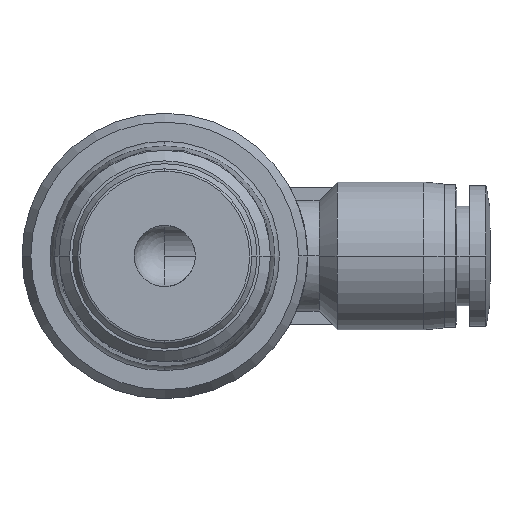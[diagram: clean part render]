
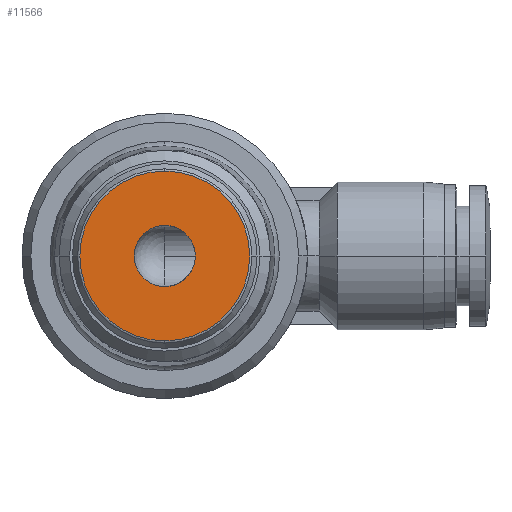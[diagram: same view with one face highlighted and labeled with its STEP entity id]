
A CAD part, front view. The second image highlights one B-rep face of the part: STEP entity #11566.
In plain terms, the highlighted planar face has unit normal (0, -1, 0).
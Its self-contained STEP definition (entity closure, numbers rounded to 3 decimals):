
#236 = CARTESIAN_POINT ( 'NONE',  ( -4.164, 0., 0. ) ) ;
#397 = EDGE_CURVE ( 'NONE', #9989, #9080, #7406, .T. ) ;
#413 = AXIS2_PLACEMENT_3D ( 'NONE', #236, #10806, #1605 ) ;
#414 = FACE_BOUND ( 'NONE', #965, .T. ) ;
#578 = CIRCLE ( 'NONE', #2747, 8.328 ) ;
#867 = CARTESIAN_POINT ( 'NONE',  ( 0., 0., 0. ) ) ;
#965 = EDGE_LOOP ( 'NONE', ( #11422, #5087 ) ) ;
#1335 = DIRECTION ( 'NONE',  ( -1., 0., 0. ) ) ;
#1595 = CARTESIAN_POINT ( 'NONE',  ( 0., 0., 0. ) ) ;
#1605 = DIRECTION ( 'NONE',  ( 0., 0., -1. ) ) ;
#2146 = VERTEX_POINT ( 'NONE', #15946 ) ;
#2172 = DIRECTION ( 'NONE',  ( 0., 1., 0. ) ) ;
#2747 = AXIS2_PLACEMENT_3D ( 'NONE', #867, #16621, #16536 ) ;
#3027 = CIRCLE ( 'NONE', #4906, 3. ) ;
#3299 = CARTESIAN_POINT ( 'NONE',  ( 0., 0., 0. ) ) ;
#3820 = VERTEX_POINT ( 'NONE', #6279 ) ;
#4186 = CARTESIAN_POINT ( 'NONE',  ( 0., 0., -8.328 ) ) ;
#4906 = AXIS2_PLACEMENT_3D ( 'NONE', #3299, #2172, #13754 ) ;
#5087 = ORIENTED_EDGE ( 'NONE', *, *, #5275, .T. ) ;
#5229 = EDGE_CURVE ( 'NONE', #3820, #2146, #3027, .T. ) ;
#5275 = EDGE_CURVE ( 'NONE', #2146, #3820, #6000, .T. ) ;
#5689 = FACE_OUTER_BOUND ( 'NONE', #13075, .T. ) ;
#5804 = EDGE_CURVE ( 'NONE', #9080, #9989, #578, .T. ) ;
#6000 = CIRCLE ( 'NONE', #16597, 3. ) ;
#6004 = DIRECTION ( 'NONE',  ( 0., 1., 0. ) ) ;
#6279 = CARTESIAN_POINT ( 'NONE',  ( -3., 0., 0. ) ) ;
#6515 = ORIENTED_EDGE ( 'NONE', *, *, #5804, .F. ) ;
#6879 = PLANE ( 'NONE',  #413 ) ;
#7406 = CIRCLE ( 'NONE', #13406, 8.328 ) ;
#7810 = DIRECTION ( 'NONE',  ( 0., 1., 0. ) ) ;
#8308 = ORIENTED_EDGE ( 'NONE', *, *, #397, .F. ) ;
#9080 = VERTEX_POINT ( 'NONE', #11579 ) ;
#9594 = CARTESIAN_POINT ( 'NONE',  ( 0., 0., 0. ) ) ;
#9989 = VERTEX_POINT ( 'NONE', #4186 ) ;
#10806 = DIRECTION ( 'NONE',  ( 0., -1., 0. ) ) ;
#11422 = ORIENTED_EDGE ( 'NONE', *, *, #5229, .T. ) ;
#11566 = ADVANCED_FACE ( 'NONE', ( #5689, #414 ), #6879, .T. ) ;
#11579 = CARTESIAN_POINT ( 'NONE',  ( 0., 0., 8.328 ) ) ;
#13075 = EDGE_LOOP ( 'NONE', ( #6515, #8308 ) ) ;
#13406 = AXIS2_PLACEMENT_3D ( 'NONE', #1595, #7810, #1335 ) ;
#13596 = DIRECTION ( 'NONE',  ( -1., 0., 0. ) ) ;
#13754 = DIRECTION ( 'NONE',  ( -1., 0., 0. ) ) ;
#15946 = CARTESIAN_POINT ( 'NONE',  ( 3., 0., 0. ) ) ;
#16536 = DIRECTION ( 'NONE',  ( -1., 0., 0. ) ) ;
#16597 = AXIS2_PLACEMENT_3D ( 'NONE', #9594, #6004, #13596 ) ;
#16621 = DIRECTION ( 'NONE',  ( 0., 1., 0. ) ) ;
